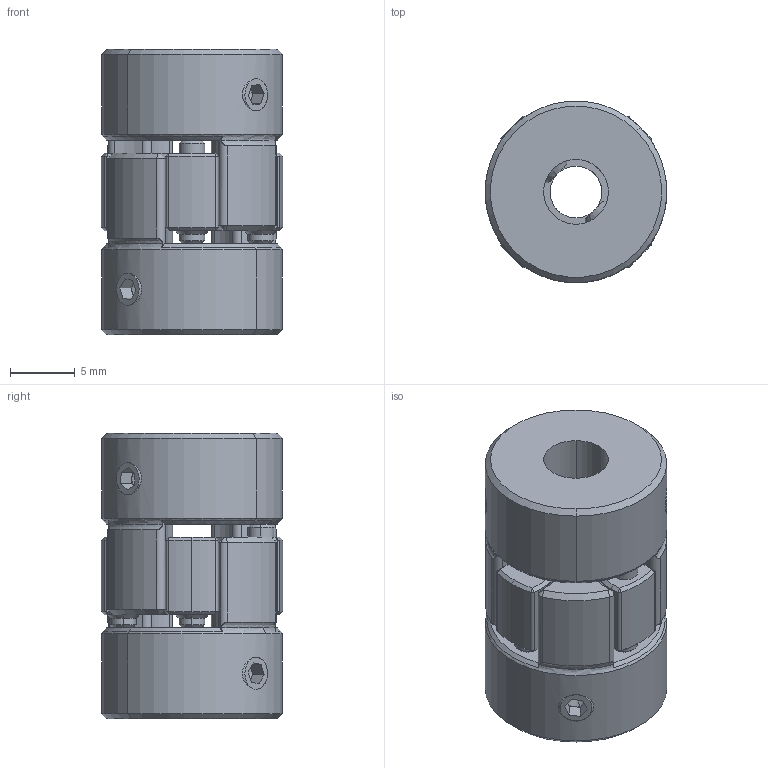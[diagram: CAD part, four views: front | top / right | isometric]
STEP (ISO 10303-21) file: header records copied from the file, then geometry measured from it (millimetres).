
FILE_DESCRIPTION (( 'STEP AP203' ), '1' );
FILE_NAME ('LF-D-D14L22-4-5.STEP', '2021-10-26T05:39:08', ( '' ), ( '' ), 'SwSTEP 2.0', 'SolidWorks 2018', '' );
FILE_SCHEMA (( 'CONFIG_CONTROL_DESIGN' ));
Length unit declared in the file: millimetre
Products named in the file (1): LF-D-D14L22-4-5
Bounding box: 14 x 14 x 22 mm (x, y, z)
Volume: 2739.8 mm3; surface area: 2146.4 mm2
Topology: 1 solids, 1 shells, 353 faces, 891 edges, 516 vertices
Faces by surface type: cone 164, cylinder 115, plane 66, torus 8
Entity records: 10869 total; most frequent: CARTESIAN_POINT 2242, DIRECTION 1935, ORIENTED_EDGE 1734, EDGE_CURVE 867, AXIS2_PLACEMENT_3D 780, VERTEX_POINT 516, CIRCLE 426, EDGE_LOOP 383
